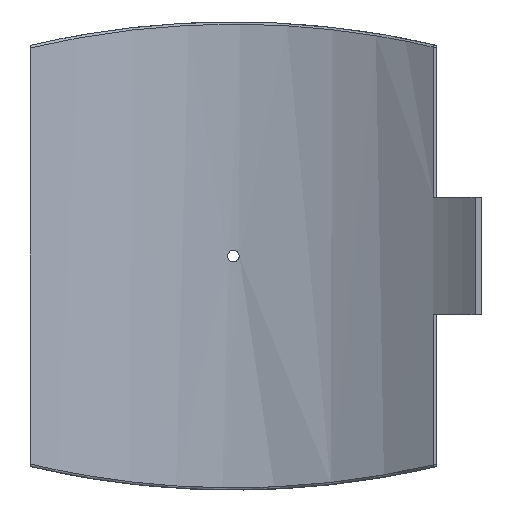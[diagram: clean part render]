
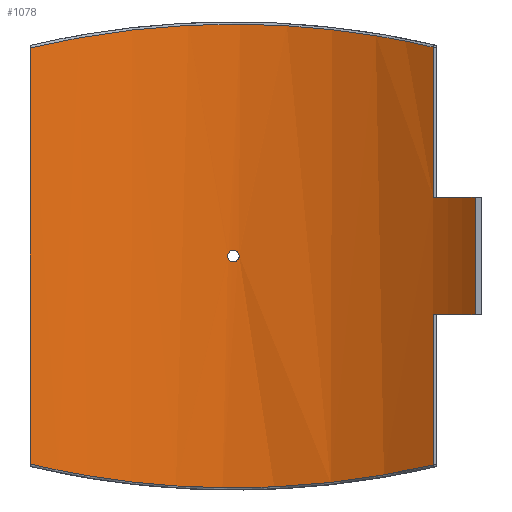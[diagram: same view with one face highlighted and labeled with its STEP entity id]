
A CAD part, front view. The second image highlights one B-rep face of the part: STEP entity #1078.
In plain terms, the highlighted cylindrical face has radius 315 mm (diameter 630 mm), a partial arc.
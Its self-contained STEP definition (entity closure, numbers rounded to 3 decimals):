
#55=FACE_BOUND('',#355,.T.);
#109=B_SPLINE_CURVE_WITH_KNOTS('',3,(#2207,#2208,#2209,#2210,#2211,#2212,
#2213,#2214,#2215,#2216),.UNSPECIFIED.,.F.,.F.,(4,1,1,1,1,1,1,4),(-44.3,
-38.726,-33.153,-27.579,-22.005,
-16.431,-10.858,-5.284),.UNSPECIFIED.);
#110=B_SPLINE_CURVE_WITH_KNOTS('',3,(#2225,#2226,#2227,#2228,#2229,#2230,
#2231,#2232,#2233,#2234),.UNSPECIFIED.,.F.,.F.,(4,1,1,1,1,1,1,4),(-41.148,
-35.574,-30.,-24.426,-18.853,
-13.279,-7.705,-2.131),.UNSPECIFIED.);
#111=B_SPLINE_CURVE_WITH_KNOTS('',3,(#2237,#2238,#2239,#2240,#2241,#2242,
#2243,#2244,#2245,#2246),.UNSPECIFIED.,.F.,.F.,(4,2,2,2,4),(0.,0.196,
0.392,0.588,0.784),.UNSPECIFIED.);
#112=B_SPLINE_CURVE_WITH_KNOTS('',3,(#2247,#2248,#2249,#2250,#2251,#2252,
#2253,#2254,#2255,#2256,#2257,#2258,#2259,#2260,#2261,#2262,#2263,#2264,
#2265,#2266,#2267,#2268,#2269,#2270,#2271,#2272),.UNSPECIFIED.,.F.,.F.,
(4,2,2,2,2,2,2,2,2,2,2,2,4),(0.784,0.979,1.175,
1.371,1.567,1.763,1.959,2.155,
2.351,2.546,2.742,2.938,3.134),
 .UNSPECIFIED.);
#133=LINE('',#1615,#184);
#144=LINE('',#1899,#195);
#151=LINE('',#2221,#202);
#152=LINE('',#2224,#203);
#184=VECTOR('',#1292,10.);
#195=VECTOR('',#1331,10.);
#202=VECTOR('',#1368,10.);
#203=VECTOR('',#1371,10.);
#244=CYLINDRICAL_SURFACE('',#1175,315.);
#288=FACE_OUTER_BOUND('',#354,.T.);
#354=EDGE_LOOP('',(#839,#840,#841,#842,#843,#844,#845,#846));
#355=EDGE_LOOP('',(#847,#848));
#449=CIRCLE('',#1176,315.);
#450=CIRCLE('',#1177,315.);
#510=VERTEX_POINT('',#1606);
#513=VERTEX_POINT('',#1613);
#533=VERTEX_POINT('',#1892);
#536=VERTEX_POINT('',#1897);
#549=VERTEX_POINT('',#2193);
#550=VERTEX_POINT('',#2218);
#551=VERTEX_POINT('',#2220);
#552=VERTEX_POINT('',#2223);
#553=VERTEX_POINT('',#2235);
#554=VERTEX_POINT('',#2236);
#613=EDGE_CURVE('',#513,#510,#133,.T.);
#643=EDGE_CURVE('',#536,#533,#144,.T.);
#666=EDGE_CURVE('',#549,#536,#109,.T.);
#667=EDGE_CURVE('',#550,#513,#449,.T.);
#668=EDGE_CURVE('',#550,#551,#151,.T.);
#669=EDGE_CURVE('',#533,#551,#450,.T.);
#670=EDGE_CURVE('',#552,#549,#152,.T.);
#671=EDGE_CURVE('',#510,#552,#110,.T.);
#672=EDGE_CURVE('',#553,#554,#111,.T.);
#673=EDGE_CURVE('',#554,#553,#112,.T.);
#839=ORIENTED_EDGE('',*,*,#667,.F.);
#840=ORIENTED_EDGE('',*,*,#668,.T.);
#841=ORIENTED_EDGE('',*,*,#669,.F.);
#842=ORIENTED_EDGE('',*,*,#643,.F.);
#843=ORIENTED_EDGE('',*,*,#666,.F.);
#844=ORIENTED_EDGE('',*,*,#670,.F.);
#845=ORIENTED_EDGE('',*,*,#671,.F.);
#846=ORIENTED_EDGE('',*,*,#613,.F.);
#847=ORIENTED_EDGE('',*,*,#672,.T.);
#848=ORIENTED_EDGE('',*,*,#673,.T.);
#1078=ADVANCED_FACE('',(#288,#55),#244,.F.);
#1175=AXIS2_PLACEMENT_3D('',#2217,#1364,#1365);
#1176=AXIS2_PLACEMENT_3D('',#2219,#1366,#1367);
#1177=AXIS2_PLACEMENT_3D('',#2222,#1369,#1370);
#1292=DIRECTION('',(0.,0.,-1.));
#1331=DIRECTION('',(0.,0.,-1.));
#1364=DIRECTION('center_axis',(0.,0.,1.));
#1365=DIRECTION('ref_axis',(-1.,0.,0.));
#1366=DIRECTION('center_axis',(0.,0.,1.));
#1367=DIRECTION('ref_axis',(-0.688,-0.725,0.));
#1368=DIRECTION('',(0.,0.,1.));
#1369=DIRECTION('center_axis',(0.,0.,-1.));
#1370=DIRECTION('ref_axis',(-0.688,-0.725,0.));
#1371=DIRECTION('',(0.,0.,1.));
#1606=CARTESIAN_POINT('',(179.113,259.121,-187.412));
#1613=CARTESIAN_POINT('',(179.113,259.121,-52.5));
#1615=CARTESIAN_POINT('',(179.113,259.121,0.));
#1892=CARTESIAN_POINT('',(179.113,259.121,52.5));
#1897=CARTESIAN_POINT('',(179.113,259.121,187.412));
#1899=CARTESIAN_POINT('',(179.113,259.121,0.));
#2193=CARTESIAN_POINT('',(-182.25,256.924,186.674));
#2207=CARTESIAN_POINT('Ctrl Pts',(-182.25,256.924,186.674));
#2208=CARTESIAN_POINT('Ctrl Pts',(-167.464,267.413,190.182));
#2209=CARTESIAN_POINT('Ctrl Pts',(-135.996,285.89,196.74));
#2210=CARTESIAN_POINT('Ctrl Pts',(-84.349,305.171,204.093));
#2211=CARTESIAN_POINT('Ctrl Pts',(-29.77,315.225,208.088));
#2212=CARTESIAN_POINT('Ctrl Pts',(25.862,315.572,208.228));
#2213=CARTESIAN_POINT('Ctrl Pts',(80.579,306.188,204.492));
#2214=CARTESIAN_POINT('Ctrl Pts',(132.486,287.535,197.352));
#2215=CARTESIAN_POINT('Ctrl Pts',(164.194,269.433,190.887));
#2216=CARTESIAN_POINT('Ctrl Pts',(179.113,259.121,187.412));
#2217=CARTESIAN_POINT('Origin',(0.,0.,0.));
#2218=CARTESIAN_POINT('',(216.845,228.48,-52.5));
#2219=CARTESIAN_POINT('Origin',(0.,0.,
-52.5));
#2220=CARTESIAN_POINT('',(216.845,228.48,52.5));
#2221=CARTESIAN_POINT('',(216.845,228.48,0.));
#2222=CARTESIAN_POINT('Origin',(0.,0.,
52.5));
#2223=CARTESIAN_POINT('',(-182.25,256.924,-186.674));
#2224=CARTESIAN_POINT('',(-182.25,256.924,0.));
#2225=CARTESIAN_POINT('Ctrl Pts',(179.113,259.121,-187.412));
#2226=CARTESIAN_POINT('Ctrl Pts',(164.194,269.433,-190.887));
#2227=CARTESIAN_POINT('Ctrl Pts',(132.486,287.535,-197.352));
#2228=CARTESIAN_POINT('Ctrl Pts',(80.579,306.188,-204.492));
#2229=CARTESIAN_POINT('Ctrl Pts',(25.862,315.572,-208.228));
#2230=CARTESIAN_POINT('Ctrl Pts',(-29.77,315.225,-208.088));
#2231=CARTESIAN_POINT('Ctrl Pts',(-84.349,305.171,-204.093));
#2232=CARTESIAN_POINT('Ctrl Pts',(-135.996,285.89,-196.74));
#2233=CARTESIAN_POINT('Ctrl Pts',(-167.464,267.413,-190.182));
#2234=CARTESIAN_POINT('Ctrl Pts',(-182.25,256.924,-186.674));
#2235=CARTESIAN_POINT('',(5.2,314.957,0.));
#2236=CARTESIAN_POINT('',(0.,315.,-5.2));
#2237=CARTESIAN_POINT('Ctrl Pts',(5.2,314.957,0.));
#2238=CARTESIAN_POINT('Ctrl Pts',(5.2,314.957,-0.653));
#2239=CARTESIAN_POINT('Ctrl Pts',(5.07,314.959,-1.349));
#2240=CARTESIAN_POINT('Ctrl Pts',(4.539,314.967,-2.631));
#2241=CARTESIAN_POINT('Ctrl Pts',(4.139,314.973,-3.215));
#2242=CARTESIAN_POINT('Ctrl Pts',(3.215,314.984,-4.139));
#2243=CARTESIAN_POINT('Ctrl Pts',(2.631,314.99,-4.539));
#2244=CARTESIAN_POINT('Ctrl Pts',(1.349,314.998,-5.07));
#2245=CARTESIAN_POINT('Ctrl Pts',(0.653,315.,-5.2));
#2246=CARTESIAN_POINT('Ctrl Pts',(0.,315.,-5.2));
#2247=CARTESIAN_POINT('Ctrl Pts',(0.,315.,-5.2));
#2248=CARTESIAN_POINT('Ctrl Pts',(-0.653,315.,-5.2));
#2249=CARTESIAN_POINT('Ctrl Pts',(-1.349,314.998,-5.07));
#2250=CARTESIAN_POINT('Ctrl Pts',(-2.631,314.99,-4.539));
#2251=CARTESIAN_POINT('Ctrl Pts',(-3.215,314.984,-4.139));
#2252=CARTESIAN_POINT('Ctrl Pts',(-4.139,314.973,-3.215));
#2253=CARTESIAN_POINT('Ctrl Pts',(-4.539,314.967,-2.631));
#2254=CARTESIAN_POINT('Ctrl Pts',(-5.07,314.959,-1.349));
#2255=CARTESIAN_POINT('Ctrl Pts',(-5.2,314.957,-0.653));
#2256=CARTESIAN_POINT('Ctrl Pts',(-5.2,314.957,0.653));
#2257=CARTESIAN_POINT('Ctrl Pts',(-5.07,314.959,1.349));
#2258=CARTESIAN_POINT('Ctrl Pts',(-4.539,314.967,2.631));
#2259=CARTESIAN_POINT('Ctrl Pts',(-4.139,314.973,3.215));
#2260=CARTESIAN_POINT('Ctrl Pts',(-3.215,314.984,4.139));
#2261=CARTESIAN_POINT('Ctrl Pts',(-2.631,314.99,4.539));
#2262=CARTESIAN_POINT('Ctrl Pts',(-1.349,314.998,5.07));
#2263=CARTESIAN_POINT('Ctrl Pts',(-0.653,315.,5.2));
#2264=CARTESIAN_POINT('Ctrl Pts',(0.653,315.,5.2));
#2265=CARTESIAN_POINT('Ctrl Pts',(1.349,314.998,5.07));
#2266=CARTESIAN_POINT('Ctrl Pts',(2.631,314.99,4.539));
#2267=CARTESIAN_POINT('Ctrl Pts',(3.215,314.984,4.139));
#2268=CARTESIAN_POINT('Ctrl Pts',(4.139,314.973,3.215));
#2269=CARTESIAN_POINT('Ctrl Pts',(4.539,314.967,2.631));
#2270=CARTESIAN_POINT('Ctrl Pts',(5.07,314.959,1.349));
#2271=CARTESIAN_POINT('Ctrl Pts',(5.2,314.957,0.653));
#2272=CARTESIAN_POINT('Ctrl Pts',(5.2,314.957,0.));
